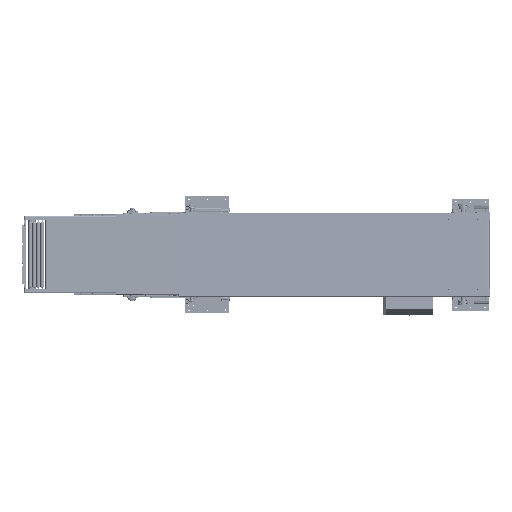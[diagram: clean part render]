
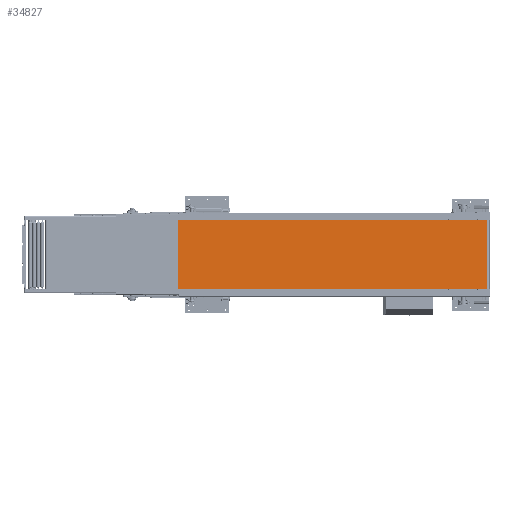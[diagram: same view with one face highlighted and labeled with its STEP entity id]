
A CAD part, top view. The second image highlights one B-rep face of the part: STEP entity #34827.
In plain terms, the highlighted planar face has unit normal (0.078, 0, 0.997) as drawn and (0, 1, 0) by its records, which use the part's own axes.
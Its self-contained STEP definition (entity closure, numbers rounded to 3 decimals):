
#22824=PLANE('',#188502);
#34827=ADVANCED_FACE('',(#44420),#22824,.T.);
#44420=FACE_OUTER_BOUND('',#54202,.T.);
#54202=EDGE_LOOP('',(#111877,#111878,#111879,#111880));
#66171=LINE('',#304965,#78892);
#66186=LINE('',#305010,#78907);
#66205=LINE('',#305055,#78926);
#66206=LINE('',#305057,#78927);
#78892=VECTOR('',#218690,1.);
#78907=VECTOR('',#218729,1.);
#78926=VECTOR('',#218780,1.);
#78927=VECTOR('',#218783,1.);
#111877=ORIENTED_EDGE('',*,*,#163578,.F.);
#111878=ORIENTED_EDGE('',*,*,#163625,.F.);
#111879=ORIENTED_EDGE('',*,*,#163599,.T.);
#111880=ORIENTED_EDGE('',*,*,#163624,.T.);
#142613=VERTEX_POINT('',#304945);
#142617=VERTEX_POINT('',#304957);
#142621=VERTEX_POINT('',#304966);
#142635=VERTEX_POINT('',#305002);
#163578=EDGE_CURVE('',#142621,#142617,#66171,.T.);
#163599=EDGE_CURVE('',#142635,#142613,#66186,.T.);
#163624=EDGE_CURVE('',#142613,#142617,#66205,.T.);
#163625=EDGE_CURVE('',#142635,#142621,#66206,.T.);
#188502=AXIS2_PLACEMENT_3D('',#305058,#218784,#218785);
#218690=DIRECTION('',(1.,0.,0.));
#218729=DIRECTION('',(1.,0.,0.));
#218780=DIRECTION('',(0.,0.,-1.));
#218783=DIRECTION('',(0.,0.,-1.));
#218784=DIRECTION('',(0.,1.,0.));
#218785=DIRECTION('',(1.,0.,0.));
#304945=CARTESIAN_POINT('',(3070.,0.,940.));
#304957=CARTESIAN_POINT('',(3070.,0.,0.));
#304965=CARTESIAN_POINT('',(-1185.,0.,0.));
#304966=CARTESIAN_POINT('',(-1179.263,0.,0.));
#305002=CARTESIAN_POINT('',(-1179.263,0.,940.));
#305010=CARTESIAN_POINT('',(-1185.,0.,940.));
#305055=CARTESIAN_POINT('',(3070.,0.,940.));
#305057=CARTESIAN_POINT('',(-1179.263,0.,940.));
#305058=CARTESIAN_POINT('',(-1185.,0.,940.));
